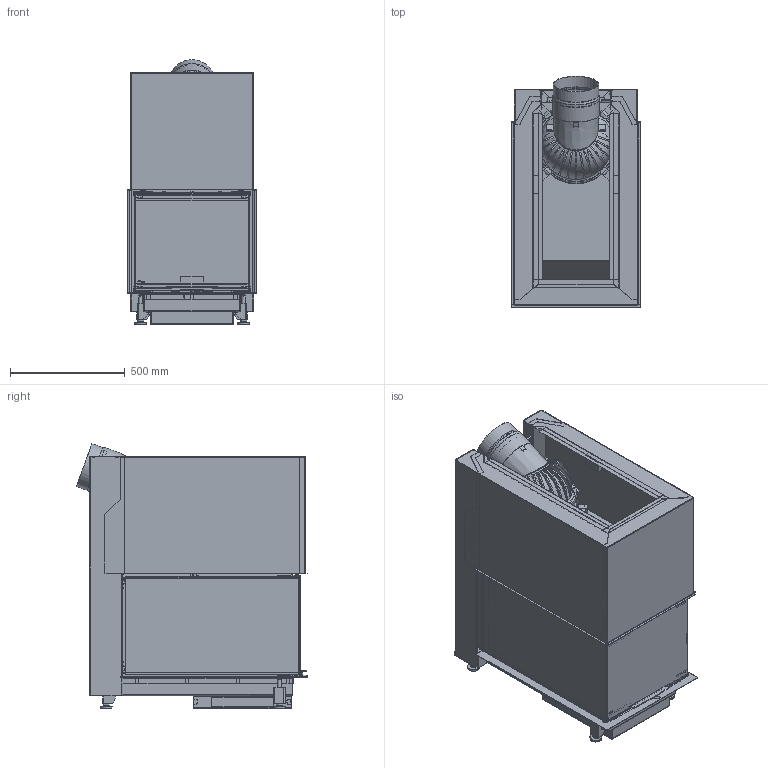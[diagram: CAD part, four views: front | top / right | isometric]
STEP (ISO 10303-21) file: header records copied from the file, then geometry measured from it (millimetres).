
FILE_DESCRIPTION(/* description */ (''),/* implementation_level */ '2;1');
FILE_NAME(/* name */ 'C:\ADSK_DM_WS\CAD_3D\03 Geraete\RIII 45x56x80\Zeichnungen\RIII 45x56x80 Gen.2 ohne Mantel Abgang hinten CAD Planung defriten 2021-03198 211124.stp',/* time_stamp */ '2021-11-24T09:57:39+01:00',/* author */ ('CPI'),/* organization */ (''),/* preprocessor_version */ 'ST-DEVELOPER v18.1',/* originating_system */ 'Autodesk Inventor 2022',/* authorisation */ '');
FILE_SCHEMA (('AUTOMOTIVE_DESIGN { 1 0 10303 214 3 1 1 }'));
Products named in the file (8): 2021-03198; 2021-03185; 2021-03189; 2021-03187; 2021-03193; 2021-03191; 2021-03174; 2018-00985
Assembly tree (7 placements, depth 2):
  2021-03198
    2021-03185
    2021-03189
    2021-03187
    2021-03193
    2021-03191
    2021-03174
    2018-00985
Bounding box: 560 x 1008.8 x 1154.38 mm (x, y, z)
Volume: 20009596.2 mm3; surface area: 17746436.8 mm2
Topology: 16 solids, 31 shells, 7652 faces, 21182 edges, 13367 vertices
Faces by surface type: plane 4645, cylinder 2623, bspline 225, cone 97, torus 61, sphere 1
Full cylindrical faces by diameter (mm): 3.242 x6, 4.8 x1, 6 x3, 7.5 x8, 7.9 x2, 10 x10, 10.21 x4, 12 x4, 16 x10, 20 x4, 30 x4, 163 x1, 194 x1, 198 x1, 200 x1, 204 x1, 333 x1, 339 x1
Entity records: 256464 total; most frequent: CARTESIAN_POINT 54543, ORIENTED_EDGE 42282, DIRECTION 41256, EDGE_CURVE 21198, LINE 14052, VECTOR 14052, AXIS2_PLACEMENT_3D 13602, VERTEX_POINT 13367
